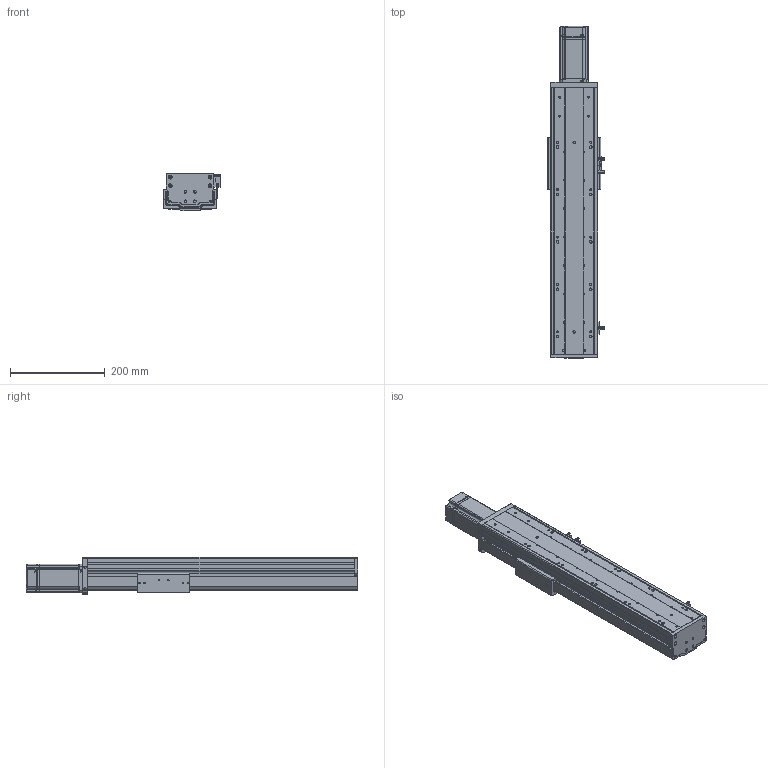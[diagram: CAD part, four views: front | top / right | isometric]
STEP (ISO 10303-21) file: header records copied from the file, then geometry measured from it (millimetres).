
FILE_DESCRIPTION (( 'STEP AP203' ), '1' );
FILE_NAME ('RY100FBS-L1610-300-MK(15双轨）.SLDASM_300.step', '2021-02-22T08:43:59', ( '盈信电脑' ), ( '东莞市道滘镇水果街19号' ), 'SwSTEP 2.0', 'SolidWorks 2012', '' );
FILE_SCHEMA (( 'CONFIG_CONTROL_DESIGN' ));
Length unit declared in the file: millimetre
Products named in the file (12): RY100FB-遵嫖萇覜茼え; RY100FBS-L1610-300-MK(15双轨）.SLDASM_300; 覜茼ん672; RY100FBS-前盖板(15双轨）; 15; 侂狟400W侜督萇儂; RY100FBS-后盖板(15双轨）; 滅袉蝶18-15; RY100FBS-300-上盖板(15双轨）; RY100FBS-铝滑块（16丝杆）; 滅袉蝶18-24; RY100FBS-300型材底座(15双轨）
Assembly tree (14 placements, depth 3):
  RY100FBS-L1610-300-MK(15双轨）.SLDASM_300
    RY100FBS-300型材底座(15双轨）
    滅袉蝶18-24  x2
    滅袉蝶18-15
    RY100FBS-铝滑块（16丝杆）
    RY100FBS-300-上盖板(15双轨）
    RY100FBS-前盖板(15双轨）
    RY100FBS-后盖板(15双轨）
    侂狟400W侜督萇儂
      15
    RY100FB-遵嫖萇覜茼え
    覜茼ん672  x3
Bounding box: 119.7 x 700.5 x 78.75 mm (x, y, z)
Volume: 1826683.9 mm3; surface area: 598403.9 mm2
Topology: 13 solids, 13 shells, 1439 faces, 4069 edges, 2656 vertices
Faces by surface type: cylinder 660, plane 647, cone 114, bspline 18
Entity records: 44426 total; most frequent: CARTESIAN_POINT 9317, DIRECTION 7160, ORIENTED_EDGE 7042, EDGE_CURVE 3521, AXIS2_PLACEMENT_3D 2569, VERTEX_POINT 2324, LINE 2022, VECTOR 2022
